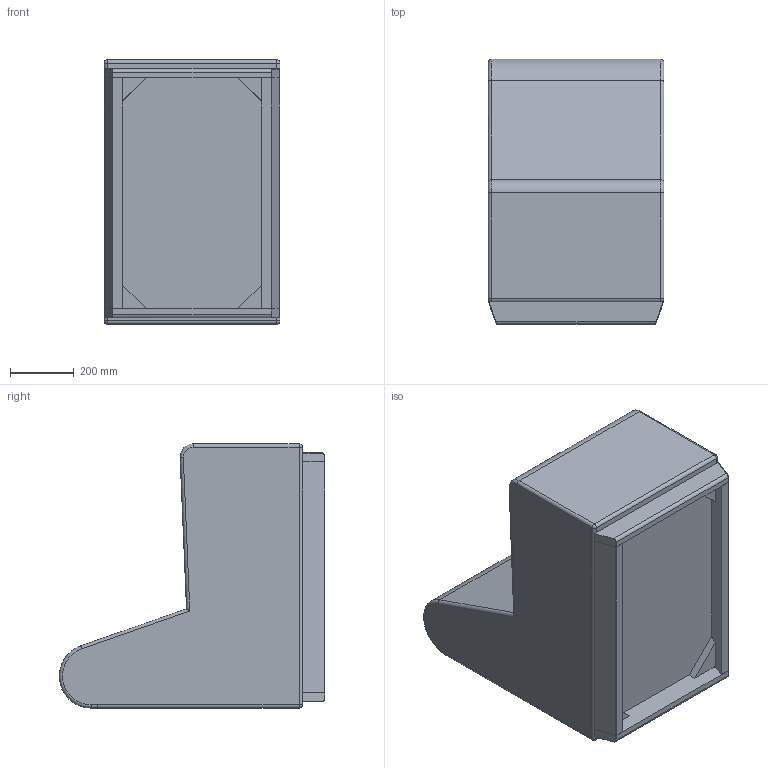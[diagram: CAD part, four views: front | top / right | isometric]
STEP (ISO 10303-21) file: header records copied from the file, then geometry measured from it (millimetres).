
FILE_DESCRIPTION(/* description */ (''),/* implementation_level */ '2;1');
FILE_NAME(/* name */ '1OH-0002 - Ohio Single Seater - STEP (Simplified).stp',/* time_stamp */ '2025-11-12T16:13:20Z',/* author */ ('craig.ferris'),/* organization */ (''),/* preprocessor_version */ 'ST-DEVELOPER v20',/* originating_system */ 'Autodesk Inventor 2025',/* authorisation */ '');
FILE_SCHEMA (('AUTOMOTIVE_DESIGN { 1 0 10303 214 3 1 1 }'));
Length unit declared in the file: millimetre
Products named in the file (1): 1OH-0002 - Ohio Single Seater (Simplified)
Bounding box: 550 x 829.65 x 826.46 mm (x, y, z)
Volume: 230478385.7 mm3; surface area: 3785665.6 mm2
Topology: 10 solids, 10 shells, 104 faces, 224 edges, 136 vertices
Faces by surface type: plane 57, cylinder 33, torus 6, sphere 4, bspline 4
Entity records: 2968 total; most frequent: CARTESIAN_POINT 661, DIRECTION 482, ORIENTED_EDGE 440, EDGE_CURVE 220, AXIS2_PLACEMENT_3D 169, LINE 144, VECTOR 144, VERTEX_POINT 136
